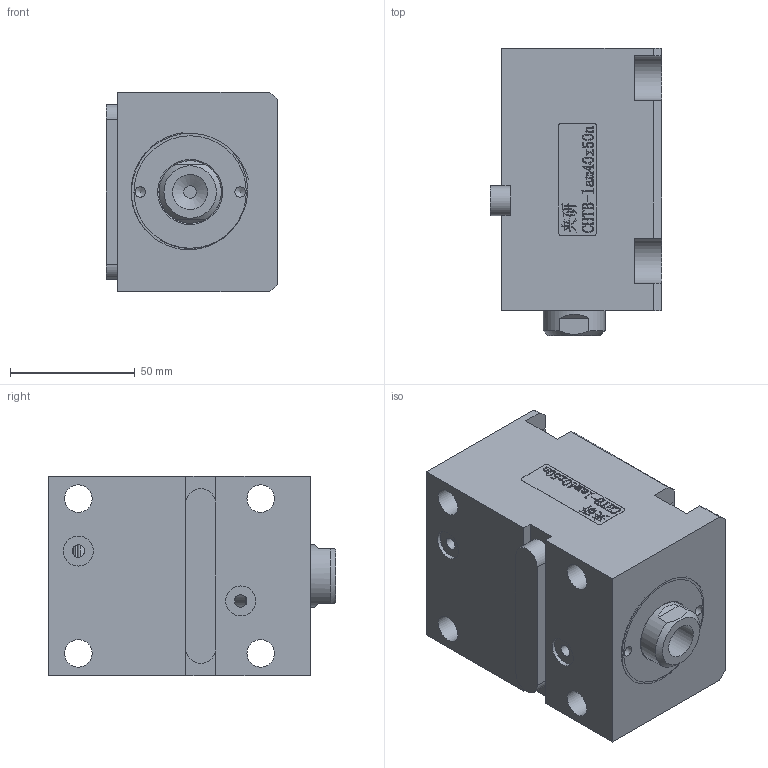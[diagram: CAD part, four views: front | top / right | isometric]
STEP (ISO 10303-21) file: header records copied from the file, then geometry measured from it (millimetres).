
FILE_DESCRIPTION(/* description */ (''),/* implementation_level */ '2;1');
FILE_NAME(/* name */ 'CHTB-lam40x50n.stp',/* time_stamp */ '2022-04-29T17:29:32+08:00',/* author */ (''),/* organization */ (''),/* preprocessor_version */ 'ST-DEVELOPER v16.7',/* originating_system */ 'SIEMENS PLM Software NX 12.0',/* authorisation */ '');
FILE_SCHEMA (('AUTOMOTIVE_DESIGN { 1 0 10303 214 3 1 1 1 }'));
Length unit declared in the file: millimetre
Products named in the file (1): CHTB-lam40x50n
Bounding box: 68.5 x 115 x 80 mm (x, y, z)
Volume: 463302.2 mm3; surface area: 88942.4 mm2
Topology: 4 solids, 4 shells, 475 faces, 1296 edges, 866 vertices
Faces by surface type: plane 315, extrusion 100, cylinder 39, torus 10, bspline 6, cone 5
Full cylindrical faces by diameter (mm): 4.2 x2, 5 x3, 11 x4, 12 x2, 14 x1, 25 x2, 29 x1, 34 x2, 40 x4, 45 x1
Entity records: 21335 total; most frequent: CARTESIAN_POINT 7279, ORIENTED_EDGE 2482, DIRECTION 1927, EDGE_CURVE 1241, VECTOR 1013, LINE 913, VERTEX_POINT 852, EDGE_LOOP 565
